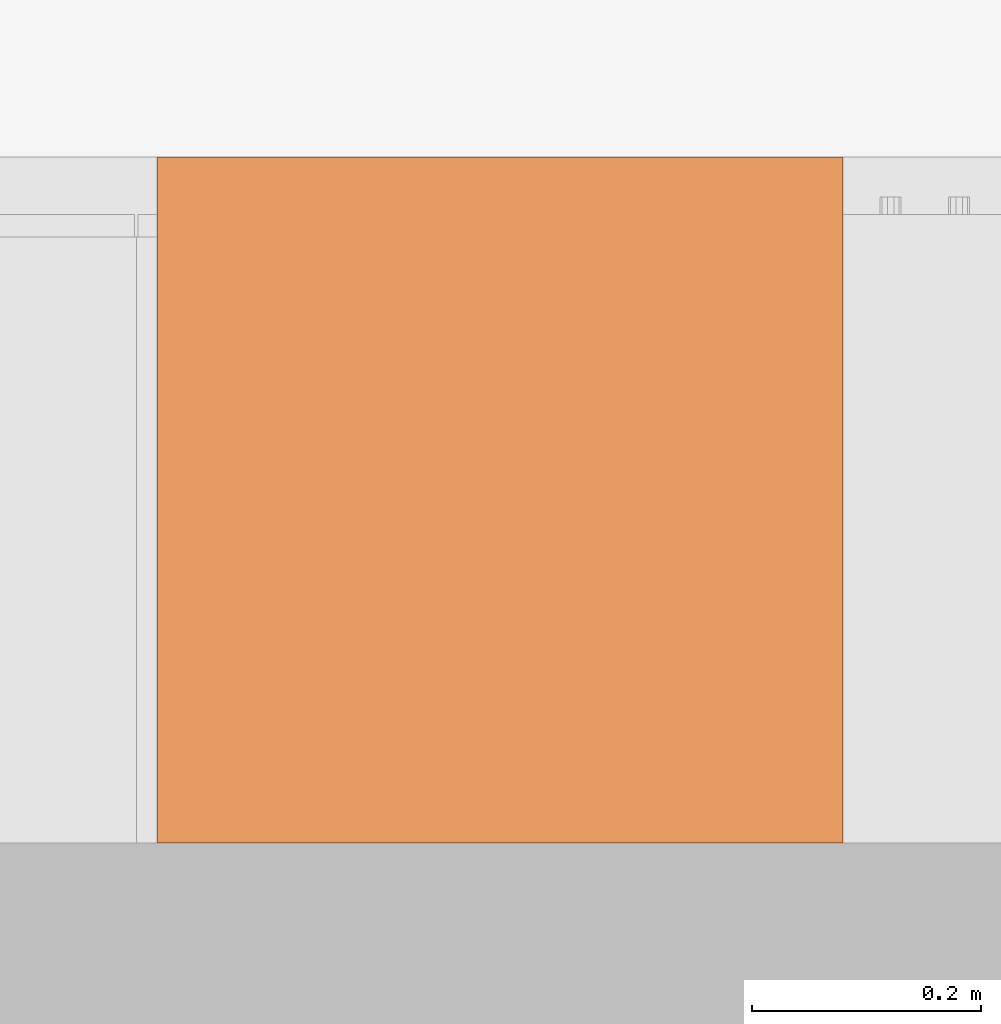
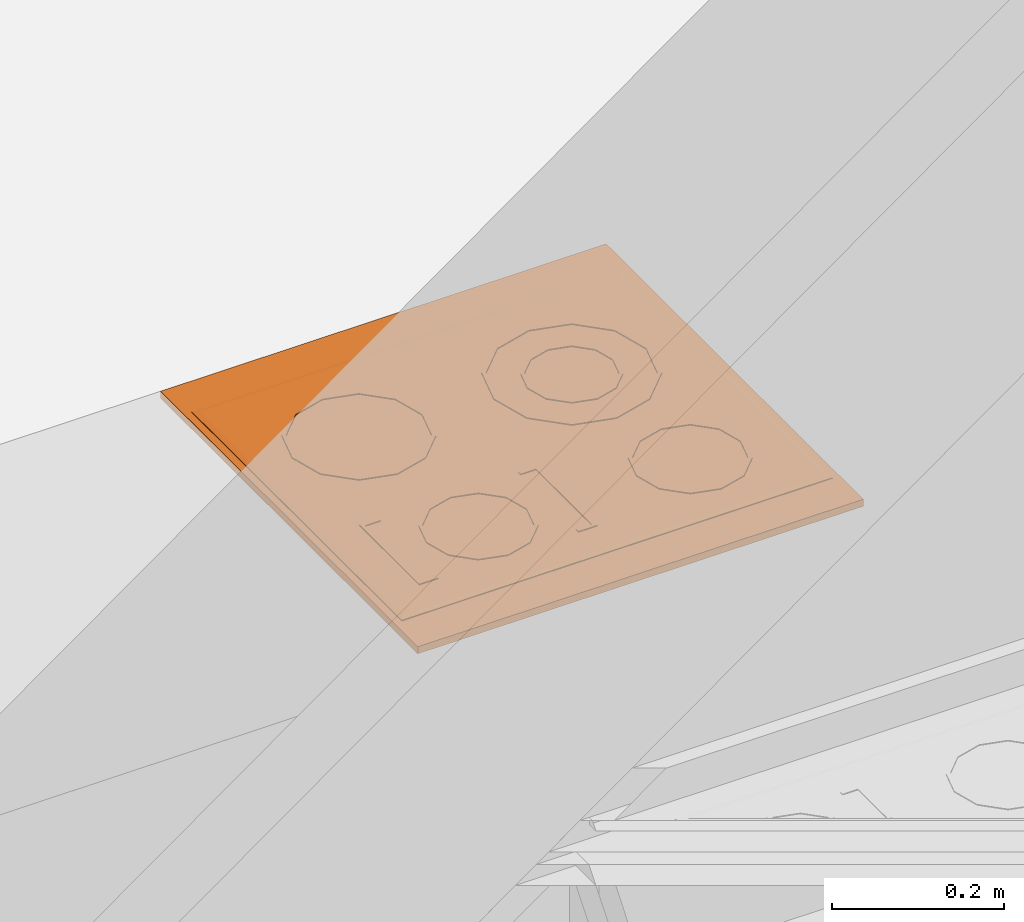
# One storey, part 28 of 28: 1 proxy.
"""IFC4 building model written with IfcOpenShell, lengths in metres."""

from ifc_helpers import new_model, entity, si_unit, converted_unit, derived_unit, direction, frame, origin_with_axes, place, context, subcontext, project, spatial, triangles, type_object, element, save


model = new_model("IFC4")

# Units and contexts
model_context = context("Model", 3, precision=1e-05, world=origin_with_axes(), true_north=direction((-0.526213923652, 0.850352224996)))
body_context = subcontext(model_context, "Body", "Model", "MODEL_VIEW")
ifc_project = project(units=[si_unit("LENGTHUNIT", "METRE"), si_unit("AREAUNIT", "SQUARE_METRE"), si_unit("VOLUMEUNIT", "CUBIC_METRE"), converted_unit("PLANEANGLEUNIT", "DEGREE", entity("IfcPlaneAngleMeasure", 0.0174532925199), si_unit("PLANEANGLEUNIT", "RADIAN"), dimensions=[0, 0, 0, 0, 0, 0, 0]), si_unit("SOLIDANGLEUNIT", "STERADIAN"), converted_unit("TIMEUNIT", "Year", entity("IfcTimeMeasure", 31556926.0), si_unit("TIMEUNIT", "SECOND"), dimensions=[0, 0, 1, 0, 0, 0, 0]), si_unit("MASSUNIT", "GRAM", prefix="KILO"), si_unit("THERMODYNAMICTEMPERATUREUNIT", "DEGREE_CELSIUS"), si_unit("LUMINOUSINTENSITYUNIT", "LUMEN"), si_unit("ENERGYUNIT", "JOULE", prefix="MEGA"), derived_unit("THERMALCONDUCTANCEUNIT", [(si_unit("POWERUNIT", "WATT"), 1), (si_unit("LENGTHUNIT", "METRE"), -1), (si_unit("THERMODYNAMICTEMPERATUREUNIT", "KELVIN"), -1)]), derived_unit("SPECIFICHEATCAPACITYUNIT", [(si_unit("ENERGYUNIT", "JOULE"), 1), (si_unit("MASSUNIT", "GRAM", prefix="KILO"), -1), (si_unit("THERMODYNAMICTEMPERATUREUNIT", "KELVIN"), -1)]), derived_unit("MASSDENSITYUNIT", [(si_unit("MASSUNIT", "GRAM", prefix="KILO"), 1), (si_unit("VOLUMEUNIT", "CUBIC_METRE"), -1)])], contexts=[model_context])

# Site, building, storey, space
site_placement = place(None, origin_with_axes())
site = spatial("IfcSite", under=ifc_project, at=site_placement, Name="Gelände", CompositionType="ELEMENT")
building_placement = place(site_placement, origin_with_axes())
building = spatial("IfcBuilding", under=site, at=building_placement, Name="Haus vom Nikolaus", CompositionType="ELEMENT")
storey_placement = place(building_placement, origin_with_axes())
storey = spatial("IfcBuildingStorey", under=building, at=storey_placement, Name="EG", CompositionType="ELEMENT", Elevation=0.0)
space_placement = place(storey_placement, frame((-3.09538684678, 5.36483190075, 0.0), z_axis=(0.0, 0.0, 1.0), x_axis=(1.0, 0.0, 0.0)))
space = spatial("IfcSpace", under=storey, at=space_placement, Name="EG", CompositionType="ELEMENT")

# Proxy
building_element_proxy_type = type_object("IfcBuildingElementProxyType", Name="Einbau Kochfeld 22", PredefinedType="NOTDEFINED")
proxy_placement = place(space_placement, frame((12.378656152, 2.87500017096, 0.242199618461), z_axis=(0.0, 0.0, 1.0), x_axis=(-1.0, 0.0, 0.0)))
element("IfcBuildingElementProxy", 1, at=proxy_placement, inside=space, type_object=building_element_proxy_type, Name="Küche-011", PredefinedType="NOTDEFINED", context=body_context, shape_type="Tessellation", body=[
    triangles([(0.6, 0.0, 0.9), (0.0, 0.0, 0.89), (0.6, 0.0, 0.89), (0.0, 0.0, 0.9), (0.6, 0.6, 0.89), (0.0, 0.6, 0.89), (0.6, 0.6, 0.9), (0.0, 0.6, 0.9)], [[1, 2, 3], [1, 4, 2], [5, 2, 6], [5, 3, 2], [7, 3, 5], [7, 1, 3], [7, 4, 1], [7, 8, 4], [4, 6, 2], [4, 8, 6], [8, 5, 6], [8, 7, 5]], closed=True),
    triangles([(0.59, 0.545000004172, 0.9), (0.01, 0.055, 0.9), (0.01, 0.545000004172, 0.9), (0.59, 0.055, 0.9), (0.00999999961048, 0.545000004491, 0.9008), (0.00999999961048, 0.0549999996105, 0.9008), (0.589999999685, 0.545000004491, 0.9008), (0.589999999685, 0.0549999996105, 0.9008), (0.0168055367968, 0.0618055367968, 0.901999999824), (0.0168055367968, 0.538194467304, 0.901999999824), (0.583194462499, 0.538194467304, 0.901999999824), (0.583194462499, 0.0618055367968, 0.901999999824)], [[1, 2, 3], [1, 4, 2], [5, 2, 6], [2, 5, 3], [7, 3, 5], [3, 7, 1], [7, 4, 1], [7, 8, 4], [8, 2, 4], [8, 6, 2], [9, 5, 6], [9, 10, 5], [10, 7, 5], [10, 11, 7], [12, 7, 11], [7, 12, 8], [12, 6, 8], [12, 9, 6], [9, 11, 10], [9, 12, 11]], closed=True),
    triangles([(0.0719131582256, 0.39311, 0.903), (0.0622, 0.42936, 0.902), (0.0719131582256, 0.39311, 0.902), (0.0622, 0.42936, 0.903), (0.0762432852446, 0.39561, 0.902), (0.0672, 0.42936, 0.902), (0.0719131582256, 0.46561, 0.902), (0.10095, 0.370903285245, 0.902), (0.1347, 0.36186, 0.902), (0.09845, 0.366573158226, 0.902), (0.16845, 0.370903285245, 0.902), (0.1347, 0.35686, 0.902), (0.197486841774, 0.39311, 0.902), (0.17095, 0.366573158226, 0.902), (0.2022, 0.42936, 0.902), (0.193156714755, 0.39561, 0.902), (0.197486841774, 0.46561, 0.902), (0.2072, 0.42936, 0.902), (0.193156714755, 0.46311, 0.902), (0.17095, 0.492146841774, 0.902), (0.1347, 0.49686, 0.902), (0.16845, 0.487816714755, 0.902), (0.09845, 0.492146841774, 0.902), (0.1347, 0.50186, 0.902), (0.10095, 0.487816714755, 0.902), (0.0762432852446, 0.46311, 0.902), (0.09845, 0.366573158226, 0.903), (0.0762432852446, 0.39561, 0.903), (0.10095, 0.370903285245, 0.903), (0.0672, 0.42936, 0.903), (0.0719131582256, 0.46561, 0.903), (0.10095, 0.487816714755, 0.903), (0.0762432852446, 0.46311, 0.903), (0.1347, 0.49686, 0.903), (0.09845, 0.492146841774, 0.903), (0.17095, 0.492146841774, 0.903), (0.1347, 0.50186, 0.903), (0.193156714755, 0.46311, 0.903), (0.16845, 0.487816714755, 0.903), (0.2072, 0.42936, 0.903), (0.197486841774, 0.46561, 0.903), (0.193156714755, 0.39561, 0.903), (0.2022, 0.42936, 0.903), (0.16845, 0.370903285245, 0.903), (0.197486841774, 0.39311, 0.903), (0.1347, 0.36186, 0.903), (0.17095, 0.366573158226, 0.903), (0.1347, 0.35686, 0.903)], [[1, 2, 3], [1, 4, 2], [5, 2, 6], [7, 6, 2], [8, 3, 5], [2, 5, 3], [9, 10, 8], [3, 8, 10], [11, 12, 9], [10, 9, 12], [11, 13, 14], [12, 11, 14], [15, 13, 16], [11, 16, 13], [15, 17, 18], [13, 15, 18], [19, 20, 17], [15, 19, 17], [21, 20, 22], [19, 22, 20], [21, 23, 24], [20, 21, 24], [25, 7, 23], [21, 25, 23], [26, 6, 7], [25, 26, 7], [27, 3, 10], [27, 1, 3], [28, 27, 29], [30, 31, 4], [28, 4, 1], [32, 31, 33], [30, 33, 31], [34, 35, 32], [31, 32, 35], [34, 36, 37], [35, 34, 37], [38, 36, 39], [34, 39, 36], [38, 40, 41], [36, 38, 41], [42, 40, 43], [38, 43, 40], [44, 45, 42], [40, 42, 45], [46, 47, 44], [45, 44, 47], [29, 48, 46], [47, 46, 48], [48, 29, 27], [4, 28, 30], [27, 28, 1], [4, 7, 2], [4, 31, 7], [31, 23, 7], [31, 35, 23], [35, 24, 23], [35, 37, 24], [37, 20, 24], [37, 36, 20], [36, 17, 20], [36, 41, 17], [41, 18, 17], [41, 40, 18], [40, 13, 18], [40, 45, 13], [45, 14, 13], [45, 47, 14], [47, 12, 14], [47, 48, 12], [48, 10, 12], [48, 27, 10], [30, 5, 6], [30, 28, 5], [28, 8, 5], [28, 29, 8], [29, 9, 8], [29, 46, 9], [46, 11, 9], [46, 44, 11], [44, 16, 11], [44, 42, 16], [42, 15, 16], [42, 43, 15], [43, 19, 15], [43, 38, 19], [38, 22, 19], [38, 39, 22], [39, 21, 22], [39, 34, 21], [34, 25, 21], [34, 32, 25], [32, 26, 25], [32, 33, 26], [33, 6, 26], [33, 30, 6]], closed=True),
    triangles([(0.0774073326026, 0.15881, 0.903), (0.06334, 0.21131, 0.902), (0.0774073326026, 0.15881, 0.902), (0.06334, 0.21131, 0.903), (0.21834, 0.124707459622, 0.902), (0.22084, 0.120377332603, 0.902), (0.16834, 0.11131, 0.902), (0.22084, 0.302242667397, 0.902), (0.16834, 0.31131, 0.902), (0.16834, 0.31631, 0.902), (0.11834, 0.297912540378, 0.902), (0.0774073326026, 0.26381, 0.902), (0.11584, 0.302242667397, 0.902), (0.254942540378, 0.26131, 0.902), (0.259272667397, 0.26381, 0.902), (0.26834, 0.21131, 0.902), (0.254942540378, 0.16131, 0.902), (0.259272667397, 0.15881, 0.902), (0.27334, 0.21131, 0.902), (0.16834, 0.10631, 0.902), (0.11834, 0.124707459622, 0.902), (0.11584, 0.120377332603, 0.902), (0.0817374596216, 0.16131, 0.902), (0.06834, 0.21131, 0.902), (0.21834, 0.297912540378, 0.902), (0.0817374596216, 0.26131, 0.902), (0.11584, 0.120377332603, 0.903), (0.06834, 0.21131, 0.903), (0.0774073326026, 0.26381, 0.903), (0.0817374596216, 0.16131, 0.903), (0.0817374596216, 0.26131, 0.903), (0.11584, 0.302242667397, 0.903), (0.11834, 0.297912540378, 0.903), (0.16834, 0.31631, 0.903), (0.16834, 0.31131, 0.903), (0.22084, 0.302242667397, 0.903), (0.254942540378, 0.26131, 0.903), (0.21834, 0.297912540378, 0.903), (0.26834, 0.21131, 0.903), (0.259272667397, 0.26381, 0.903), (0.259272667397, 0.15881, 0.903), (0.27334, 0.21131, 0.903), (0.254942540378, 0.16131, 0.903), (0.22084, 0.120377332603, 0.903), (0.16834, 0.11131, 0.903), (0.21834, 0.124707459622, 0.903), (0.11834, 0.124707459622, 0.903), (0.16834, 0.10631, 0.903)], [[1, 2, 3], [1, 4, 2], [5, 6, 7], [8, 9, 10], [11, 12, 13], [14, 15, 16], [6, 17, 18], [18, 16, 19], [7, 20, 21], [3, 21, 22], [23, 2, 24], [2, 23, 3], [12, 24, 2], [25, 8, 14], [11, 13, 9], [21, 3, 23], [22, 21, 20], [20, 7, 6], [17, 6, 5], [16, 18, 17], [19, 16, 15], [15, 14, 8], [9, 8, 25], [10, 9, 13], [26, 12, 11], [12, 26, 24], [27, 3, 22], [27, 1, 3], [28, 29, 4], [30, 4, 1], [31, 32, 29], [28, 31, 29], [33, 34, 32], [31, 33, 32], [35, 36, 34], [33, 35, 34], [37, 36, 38], [35, 38, 36], [39, 40, 37], [36, 37, 40], [39, 41, 42], [40, 39, 42], [43, 44, 41], [39, 43, 41], [45, 44, 46], [43, 46, 44], [47, 48, 45], [44, 45, 48], [47, 1, 27], [48, 47, 27], [4, 30, 28], [47, 30, 1], [4, 12, 2], [4, 29, 12], [29, 13, 12], [29, 32, 13], [32, 10, 13], [32, 34, 10], [34, 8, 10], [34, 36, 8], [36, 15, 8], [36, 40, 15], [40, 19, 15], [40, 42, 19], [42, 18, 19], [42, 41, 18], [41, 6, 18], [41, 44, 6], [44, 20, 6], [44, 48, 20], [48, 22, 20], [48, 27, 22], [28, 23, 24], [28, 30, 23], [30, 21, 23], [30, 47, 21], [47, 7, 21], [47, 45, 7], [45, 5, 7], [45, 46, 5], [46, 17, 5], [46, 43, 17], [43, 16, 17], [43, 39, 16], [39, 14, 16], [39, 37, 14], [37, 25, 14], [37, 38, 25], [38, 9, 25], [38, 35, 9], [35, 11, 9], [35, 33, 11], [33, 26, 11], [33, 31, 26], [31, 24, 26], [31, 28, 24]], closed=True),
    triangles([(0.116378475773, 0.18131, 0.903), (0.10834, 0.21131, 0.902), (0.116378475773, 0.18131, 0.902), (0.10834, 0.21131, 0.903), (0.120708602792, 0.18381, 0.902), (0.11334, 0.21131, 0.902), (0.116378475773, 0.24131, 0.902), (0.13834, 0.159348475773, 0.902), (0.14084, 0.163678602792, 0.902), (0.16834, 0.15131, 0.902), (0.19584, 0.163678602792, 0.902), (0.16834, 0.15631, 0.902), (0.220301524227, 0.18131, 0.902), (0.19834, 0.159348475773, 0.902), (0.215971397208, 0.18381, 0.902), (0.22834, 0.21131, 0.902), (0.22334, 0.21131, 0.902), (0.220301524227, 0.24131, 0.902), (0.215971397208, 0.23881, 0.902), (0.19834, 0.263271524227, 0.902), (0.19584, 0.258941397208, 0.902), (0.16834, 0.27131, 0.902), (0.16834, 0.26631, 0.902), (0.13834, 0.263271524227, 0.902), (0.14084, 0.258941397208, 0.902), (0.120708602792, 0.23881, 0.902), (0.13834, 0.159348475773, 0.903), (0.11334, 0.21131, 0.903), (0.116378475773, 0.24131, 0.903), (0.120708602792, 0.18381, 0.903), (0.14084, 0.258941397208, 0.903), (0.120708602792, 0.23881, 0.903), (0.16834, 0.26631, 0.903), (0.13834, 0.263271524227, 0.903), (0.19584, 0.258941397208, 0.903), (0.16834, 0.27131, 0.903), (0.220301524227, 0.24131, 0.903), (0.19834, 0.263271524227, 0.903), (0.215971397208, 0.23881, 0.903), (0.22834, 0.21131, 0.903), (0.22334, 0.21131, 0.903), (0.220301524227, 0.18131, 0.903), (0.215971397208, 0.18381, 0.903), (0.19834, 0.159348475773, 0.903), (0.19584, 0.163678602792, 0.903), (0.16834, 0.15131, 0.903), (0.14084, 0.163678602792, 0.903), (0.16834, 0.15631, 0.903)], [[1, 2, 3], [1, 4, 2], [5, 2, 6], [7, 6, 2], [5, 8, 3], [2, 5, 3], [9, 10, 8], [5, 9, 8], [11, 10, 12], [9, 12, 10], [11, 13, 14], [10, 11, 14], [15, 16, 13], [11, 15, 13], [17, 18, 16], [15, 17, 16], [19, 20, 18], [17, 19, 18], [21, 22, 20], [19, 21, 20], [23, 24, 22], [21, 23, 22], [25, 7, 24], [23, 25, 24], [26, 6, 7], [25, 26, 7], [27, 3, 8], [27, 1, 3], [28, 29, 4], [30, 4, 1], [31, 29, 32], [28, 32, 29], [33, 34, 31], [29, 31, 34], [35, 36, 33], [34, 33, 36], [35, 37, 38], [36, 35, 38], [39, 40, 37], [35, 39, 37], [41, 42, 40], [39, 41, 40], [43, 44, 42], [41, 43, 42], [45, 46, 44], [43, 45, 44], [47, 46, 48], [45, 48, 46], [47, 1, 27], [46, 47, 27], [4, 30, 28], [47, 30, 1], [4, 7, 2], [4, 29, 7], [29, 24, 7], [29, 34, 24], [34, 22, 24], [34, 36, 22], [36, 20, 22], [36, 38, 20], [38, 18, 20], [38, 37, 18], [37, 16, 18], [37, 40, 16], [40, 13, 16], [40, 42, 13], [42, 14, 13], [42, 44, 14], [44, 10, 14], [44, 46, 10], [46, 8, 10], [46, 27, 8], [28, 5, 6], [28, 30, 5], [30, 9, 5], [30, 47, 9], [47, 12, 9], [47, 48, 12], [48, 11, 12], [48, 45, 11], [45, 15, 11], [45, 43, 15], [43, 17, 15], [43, 41, 17], [41, 19, 17], [41, 39, 19], [39, 21, 19], [39, 35, 21], [35, 23, 21], [35, 33, 23], [33, 25, 23], [33, 31, 25], [31, 26, 25], [31, 32, 26], [32, 6, 26], [32, 28, 6]], closed=True),
    triangles([(0.356538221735, 0.38946, 0.903), (0.34716, 0.42446, 0.902), (0.356538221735, 0.38946, 0.902), (0.34716, 0.42446, 0.903), (0.360868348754, 0.45696, 0.902), (0.38216, 0.485081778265, 0.902), (0.38466, 0.480751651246, 0.902), (0.360868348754, 0.39196, 0.902), (0.35216, 0.42446, 0.902), (0.356538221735, 0.45946, 0.902), (0.38466, 0.368168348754, 0.902), (0.41716, 0.35946, 0.902), (0.38216, 0.363838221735, 0.902), (0.44966, 0.368168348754, 0.902), (0.41716, 0.35446, 0.902), (0.473451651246, 0.39196, 0.902), (0.45216, 0.363838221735, 0.902), (0.48216, 0.42446, 0.902), (0.477781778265, 0.38946, 0.902), (0.473451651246, 0.45696, 0.902), (0.48716, 0.42446, 0.902), (0.44966, 0.480751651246, 0.902), (0.477781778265, 0.45946, 0.902), (0.41716, 0.48946, 0.902), (0.45216, 0.485081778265, 0.902), (0.41716, 0.49446, 0.902), (0.38216, 0.363838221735, 0.903), (0.35216, 0.42446, 0.903), (0.356538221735, 0.45946, 0.903), (0.360868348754, 0.39196, 0.903), (0.360868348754, 0.45696, 0.903), (0.38216, 0.485081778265, 0.903), (0.38466, 0.480751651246, 0.903), (0.41716, 0.49446, 0.903), (0.41716, 0.48946, 0.903), (0.45216, 0.485081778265, 0.903), (0.44966, 0.480751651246, 0.903), (0.477781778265, 0.45946, 0.903), (0.473451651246, 0.45696, 0.903), (0.48716, 0.42446, 0.903), (0.473451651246, 0.39196, 0.903), (0.48216, 0.42446, 0.903), (0.45216, 0.363838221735, 0.903), (0.477781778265, 0.38946, 0.903), (0.44966, 0.368168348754, 0.903), (0.41716, 0.35446, 0.903), (0.38466, 0.368168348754, 0.903), (0.41716, 0.35946, 0.903)], [[1, 2, 3], [1, 4, 2], [5, 6, 7], [8, 2, 9], [10, 9, 2], [11, 3, 8], [2, 8, 3], [12, 13, 11], [3, 11, 13], [14, 15, 12], [13, 12, 15], [16, 17, 14], [15, 14, 17], [18, 19, 16], [17, 16, 19], [20, 21, 18], [19, 18, 21], [22, 23, 20], [21, 20, 23], [24, 25, 22], [23, 22, 25], [7, 26, 24], [25, 24, 26], [26, 7, 6], [5, 9, 10], [6, 5, 10], [27, 3, 13], [27, 1, 3], [28, 29, 4], [30, 4, 1], [31, 32, 29], [28, 31, 29], [33, 34, 32], [31, 33, 32], [35, 36, 34], [33, 35, 34], [37, 38, 36], [35, 37, 36], [39, 40, 38], [37, 39, 38], [41, 40, 42], [39, 42, 40], [41, 43, 44], [40, 41, 44], [45, 46, 43], [41, 45, 43], [47, 46, 48], [45, 48, 46], [47, 1, 27], [46, 47, 27], [4, 30, 28], [47, 30, 1], [4, 10, 2], [4, 29, 10], [29, 6, 10], [29, 32, 6], [32, 26, 6], [32, 34, 26], [34, 25, 26], [34, 36, 25], [36, 23, 25], [36, 38, 23], [38, 21, 23], [38, 40, 21], [40, 19, 21], [40, 44, 19], [44, 17, 19], [44, 43, 17], [43, 15, 17], [43, 46, 15], [46, 13, 15], [46, 27, 13], [28, 8, 9], [28, 30, 8], [30, 11, 8], [30, 47, 11], [47, 12, 11], [47, 48, 12], [48, 14, 12], [48, 45, 14], [45, 16, 14], [45, 41, 16], [41, 18, 16], [41, 42, 18], [42, 20, 18], [42, 39, 20], [39, 22, 20], [39, 37, 22], [37, 24, 22], [37, 35, 24], [35, 7, 24], [35, 33, 7], [33, 5, 7], [33, 31, 5], [31, 9, 5], [31, 28, 9]], closed=True),
    triangles([(0.368797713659, 0.1521, 0.903), (0.35674, 0.1971, 0.902), (0.368797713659, 0.1521, 0.902), (0.35674, 0.1971, 0.903), (0.373127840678, 0.2396, 0.902), (0.40174, 0.275042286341, 0.902), (0.40424, 0.270712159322, 0.902), (0.373127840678, 0.1546, 0.902), (0.36174, 0.1971, 0.902), (0.368797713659, 0.2421, 0.902), (0.40174, 0.119157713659, 0.902), (0.40424, 0.123487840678, 0.902), (0.44674, 0.1071, 0.902), (0.48924, 0.123487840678, 0.902), (0.44674, 0.1121, 0.902), (0.520352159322, 0.1546, 0.902), (0.49174, 0.119157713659, 0.902), (0.53674, 0.1971, 0.902), (0.524682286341, 0.1521, 0.902), (0.53174, 0.1971, 0.902), (0.524682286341, 0.2421, 0.902), (0.520352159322, 0.2396, 0.902), (0.49174, 0.275042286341, 0.902), (0.48924, 0.270712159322, 0.902), (0.44674, 0.2871, 0.902), (0.44674, 0.2821, 0.902), (0.40174, 0.119157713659, 0.903), (0.373127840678, 0.1546, 0.903), (0.40424, 0.123487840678, 0.903), (0.36174, 0.1971, 0.903), (0.368797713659, 0.2421, 0.903), (0.373127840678, 0.2396, 0.903), (0.40174, 0.275042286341, 0.903), (0.44674, 0.2821, 0.903), (0.40424, 0.270712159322, 0.903), (0.48924, 0.270712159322, 0.903), (0.44674, 0.2871, 0.903), (0.520352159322, 0.2396, 0.903), (0.49174, 0.275042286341, 0.903), (0.53174, 0.1971, 0.903), (0.524682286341, 0.2421, 0.903), (0.524682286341, 0.1521, 0.903), (0.53674, 0.1971, 0.903), (0.520352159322, 0.1546, 0.903), (0.49174, 0.119157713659, 0.903), (0.48924, 0.123487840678, 0.903), (0.44674, 0.1071, 0.903), (0.44674, 0.1121, 0.903)], [[1, 2, 3], [1, 4, 2], [5, 6, 7], [8, 2, 9], [10, 9, 2], [8, 11, 3], [2, 8, 3], [12, 13, 11], [8, 12, 11], [14, 13, 15], [12, 15, 13], [16, 17, 14], [13, 14, 17], [16, 18, 19], [17, 16, 19], [20, 21, 18], [16, 20, 18], [22, 23, 21], [20, 22, 21], [24, 25, 23], [22, 24, 23], [7, 25, 26], [24, 26, 25], [25, 7, 6], [5, 9, 10], [6, 5, 10], [27, 3, 11], [27, 1, 3], [28, 27, 29], [30, 31, 4], [28, 4, 1], [32, 33, 31], [30, 32, 31], [34, 33, 35], [32, 35, 33], [36, 37, 34], [33, 34, 37], [38, 39, 36], [37, 36, 39], [40, 41, 38], [39, 38, 41], [40, 42, 43], [41, 40, 43], [44, 45, 42], [40, 44, 42], [46, 47, 45], [44, 46, 45], [29, 47, 48], [46, 48, 47], [47, 29, 27], [4, 28, 30], [27, 28, 1], [4, 10, 2], [4, 31, 10], [31, 6, 10], [31, 33, 6], [33, 25, 6], [33, 37, 25], [37, 23, 25], [37, 39, 23], [39, 21, 23], [39, 41, 21], [41, 18, 21], [41, 43, 18], [43, 19, 18], [43, 42, 19], [42, 17, 19], [42, 45, 17], [45, 13, 17], [45, 47, 13], [47, 11, 13], [47, 27, 11], [30, 8, 9], [30, 28, 8], [28, 12, 8], [28, 29, 12], [29, 15, 12], [29, 48, 15], [48, 14, 15], [48, 46, 14], [46, 16, 14], [46, 44, 16], [44, 20, 16], [44, 40, 20], [40, 22, 20], [40, 38, 22], [38, 24, 22], [38, 36, 24], [36, 26, 24], [36, 34, 26], [34, 7, 26], [34, 35, 7], [35, 5, 7], [35, 32, 5], [32, 9, 5], [32, 30, 9]], closed=True),
    triangles([(0.322821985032, 0.354602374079, 0.903), (0.29716, 0.354602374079, 0.902), (0.322821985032, 0.354602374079, 0.902), (0.29716, 0.354602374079, 0.903), (0.30216, 0.359602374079, 0.902), (0.30216, 0.489317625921, 0.902), (0.322821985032, 0.494317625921, 0.902), (0.322821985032, 0.489317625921, 0.902), (0.29716, 0.494317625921, 0.902), (0.322821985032, 0.359602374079, 0.902), (0.322821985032, 0.359602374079, 0.903), (0.29716, 0.494317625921, 0.903), (0.30216, 0.489317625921, 0.903), (0.30216, 0.359602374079, 0.903), (0.322821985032, 0.494317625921, 0.903), (0.322821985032, 0.489317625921, 0.903)], [[1, 2, 3], [1, 4, 2], [5, 3, 2], [6, 7, 8], [6, 5, 2], [7, 6, 9], [9, 6, 2], [3, 5, 10], [11, 3, 10], [11, 1, 3], [12, 4, 13], [14, 1, 11], [13, 4, 14], [1, 14, 4], [15, 12, 13], [15, 13, 16], [4, 9, 2], [4, 12, 9], [12, 7, 9], [12, 15, 7], [15, 8, 7], [15, 16, 8], [16, 6, 8], [16, 13, 6], [13, 5, 6], [13, 14, 5], [14, 10, 5], [14, 11, 10]], closed=True),
    triangles([(0.53716, 0.494317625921, 0.903), (0.53716, 0.354602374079, 0.902), (0.53716, 0.494317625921, 0.902), (0.53716, 0.354602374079, 0.903), (0.53216, 0.489317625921, 0.902), (0.53216, 0.359602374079, 0.902), (0.511498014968, 0.354602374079, 0.902), (0.511498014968, 0.359602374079, 0.902), (0.511498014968, 0.494317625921, 0.902), (0.511498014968, 0.489317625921, 0.902), (0.511498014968, 0.494317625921, 0.903), (0.53216, 0.359602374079, 0.903), (0.511498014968, 0.354602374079, 0.903), (0.53216, 0.489317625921, 0.903), (0.511498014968, 0.489317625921, 0.903), (0.511498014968, 0.359602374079, 0.903)], [[1, 2, 3], [1, 4, 2], [3, 2, 5], [6, 7, 8], [5, 2, 6], [7, 6, 2], [9, 3, 5], [9, 5, 10], [11, 3, 9], [11, 1, 3], [12, 13, 4], [14, 11, 15], [14, 12, 4], [11, 14, 1], [1, 14, 4], [13, 12, 16], [4, 7, 2], [4, 13, 7], [13, 8, 7], [13, 16, 8], [16, 6, 8], [16, 12, 6], [12, 5, 6], [12, 14, 5], [14, 10, 5], [14, 15, 10], [15, 9, 10], [15, 11, 9]], closed=True),
])

save(model, "model.ifc")
